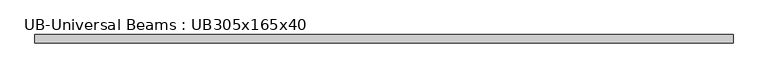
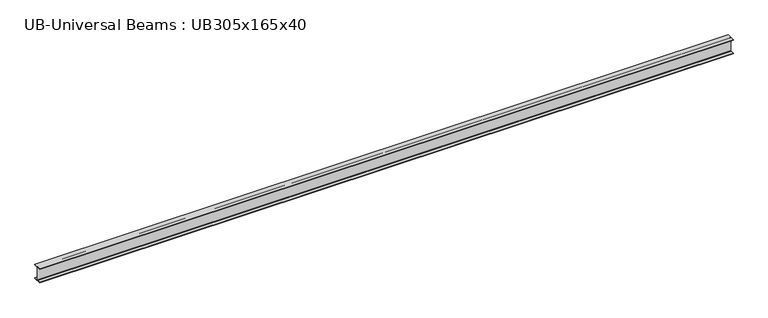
"""IFC4 building model written with IfcOpenShell, lengths in millimetres: beam geometry, UB-Universal Beams : UB305x165x40."""

from ifc_helpers import new_model, si_unit, point, frame, frame_2d, origin, place, context, project, spatial, polyline, circle_curve, trimmed, segment, composite_curve, outline, extrude, source, transform, mapped, element, save


def ub_universal_beams_ub305x165x40_15c34948(model_context):
    return source(origin(), model_context, "Body", "SweptSolid", [
        extrude(outline(composite_curve([segment(polyline([(82.5, -141.5), (82.5, -151.7), (-82.5, -151.7), (-82.5, -141.5), (-11.9, -141.5)]), True, "CONTINUOUS"), segment(trimmed(circle_curve(frame_2d((-11.9, -132.6)), 8.9), [point((-11.9, -141.5))], [point((-3.0, -132.6))], True, "CARTESIAN"), True, "CONTINUOUS"), segment(polyline([(-3.0, -132.6), (-3.0, 132.6)]), True, "CONTINUOUS"), segment(trimmed(circle_curve(frame_2d((-11.9, 132.6)), 8.9), [point((-3.0, 132.6))], [point((-11.9, 141.5))], True, "CARTESIAN"), True, "CONTINUOUS"), segment(polyline([(-11.9, 141.5), (-82.5, 141.5), (-82.5, 151.7), (82.5, 151.7), (82.5, 141.5), (11.9, 141.5)]), True, "CONTINUOUS"), segment(trimmed(circle_curve(frame_2d((11.9, 132.6)), 8.9), [point((11.9, 141.5))], [point((3.0, 132.6))], True, "CARTESIAN"), True, "CONTINUOUS"), segment(polyline([(3.0, 132.6), (3.0, -132.6)]), True, "CONTINUOUS"), segment(trimmed(circle_curve(frame_2d((11.9, -132.6)), 8.9), [point((3.0, -132.6))], [point((11.9, -141.5))], True, "CARTESIAN"), True, "CONTINUOUS"), segment(polyline([(11.9, -141.5), (82.5, -141.5)]), True, "CONTINUOUS")], self_intersect=False)), frame((-7024.85, 0.0, 0.0), z_axis=(1.0, 0.0, 0.0), x_axis=(0.0, 1.0, 0.0)), (0.0, 0.0, 1.0), 14058.3),
    ])


if __name__ == "__main__":
    model = new_model("IFC4")
    model_context = context("Model", 3, world=origin())
    ifc_project = project(units=[si_unit("LENGTHUNIT", "METRE", prefix="MILLI")], contexts=[model_context])
    site = spatial("IfcSite", under=ifc_project)
    building = spatial("IfcBuilding", under=site)
    placement = place(None, origin())
    ub_universal_beams_ub305x165x40_shape = ub_universal_beams_ub305x165x40_15c34948(model_context)
    element("IfcBeam", 1, ObjectType="UB-Universal Beams : UB305x165x40", at=placement, inside=building, context=model_context, shape_type="MappedRepresentation", body=[
        mapped(ub_universal_beams_ub305x165x40_shape, transform((0.0, 0.0, 0.0), x_axis=(1.0, 0.0, 0.0), y_axis=(0.0, 1.0, 0.0), z_axis=(0.0, 0.0, 1.0))),
    ])
    save(model, "model.ifc")
